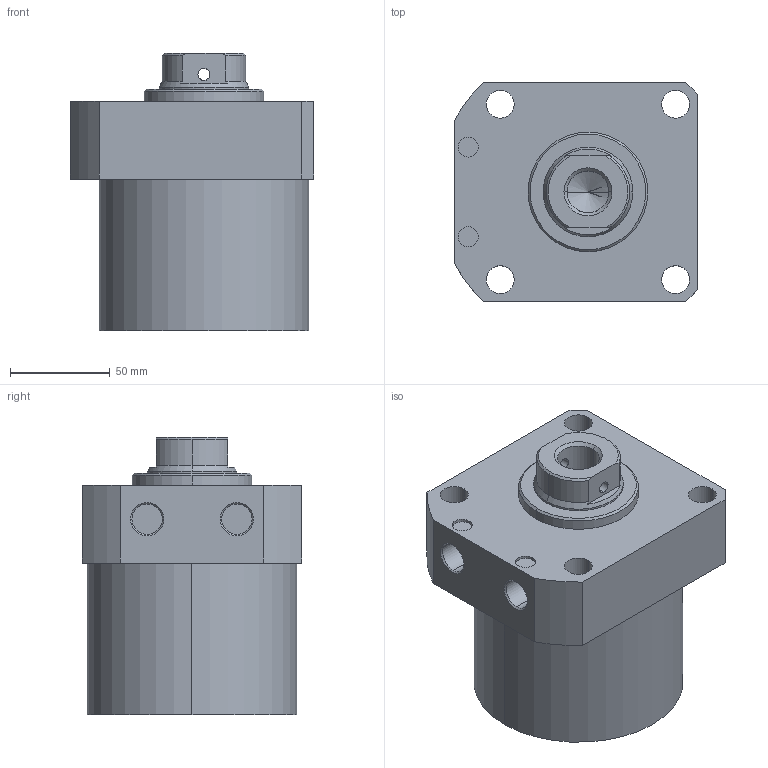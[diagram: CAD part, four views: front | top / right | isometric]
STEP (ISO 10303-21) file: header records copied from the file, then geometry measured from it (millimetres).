
FILE_DESCRIPTION (( 'STEP AP203' ), '1' );
FILE_NAME ('CLLR-105CB-055.STEP', '2019-12-19T01:44:51', ( '' ), ( '' ), 'SwSTEP 2.0', 'SolidWorks 2015', '' );
FILE_SCHEMA (( 'CONFIG_CONTROL_DESIGN' ));
Length unit declared in the file: millimetre
Products named in the file (1): CLLR-105CB-055
Bounding box: 122 x 110 x 139 mm (x, y, z)
Volume: 1160162.6 mm3; surface area: 83024.9 mm2
Topology: 1 solids, 1 shells, 67 faces, 160 edges, 101 vertices
Faces by surface type: cylinder 33, plane 19, cone 15
Entity records: 2165 total; most frequent: CARTESIAN_POINT 471, DIRECTION 358, ORIENTED_EDGE 316, EDGE_CURVE 158, AXIS2_PLACEMENT_3D 144, VERTEX_POINT 101, EDGE_LOOP 87, CIRCLE 76
